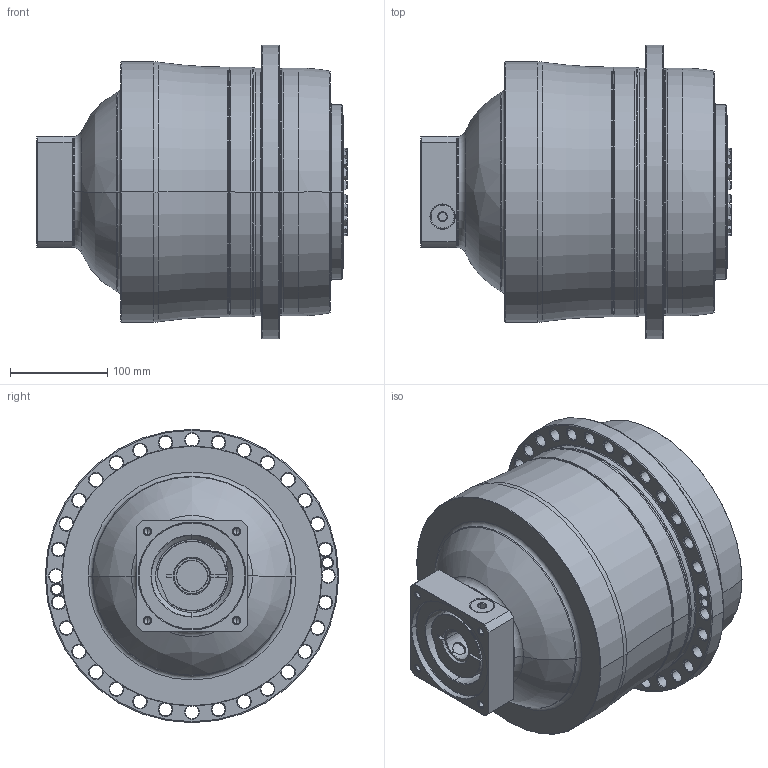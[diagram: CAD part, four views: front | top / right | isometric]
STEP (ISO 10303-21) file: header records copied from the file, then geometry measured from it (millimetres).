
FILE_DESCRIPTION((''),'2;1');
FILE_NAME('APC255_3ST_32-P0409710201_ASM','2018-07-05T',('d01226'),(''),'PRO/ENGINEER BY PARAMETRIC TECHNOLOGY CORPORATION, 2008410','PRO/ENGINEER BY PARAMETRIC TECHNOLOGY CORPORATION, 2008410','');
FILE_SCHEMA(('CONFIG_CONTROL_DESIGN'));
Length unit declared in the file: millimetre
Products named in the file (9): P0278701003; P0359770103; P1366700201; P0503700010; P0912502001; P1211700001; P0409710201; 21711418017; APC255_3ST_32-P0409710201_ASM
Assembly tree (8 placements, depth 2):
  APC255_3ST_32-P0409710201_ASM
    P0278701003
    P0359770103
    P1366700201
    P0503700010
    P0912502001
    P1211700001
    P0409710201
    21711418017
Bounding box: 319.6 x 302 x 302 mm (x, y, z)
Volume: 13150166.4 mm3; surface area: 725075.8 mm2
Topology: 9 solids, 21 shells, 759 faces, 1871 edges, 1141 vertices
Faces by surface type: cone 271, cylinder 229, plane 128, torus 115, bspline 16
Entity records: 28018 total; most frequent: CARTESIAN_POINT 9587, DIRECTION 4123, ORIENTED_EDGE 3656, EDGE_CURVE 1853, AXIS2_PLACEMENT_3D 1795, VERTEX_POINT 1141, CIRCLE 1023, EDGE_LOOP 870
